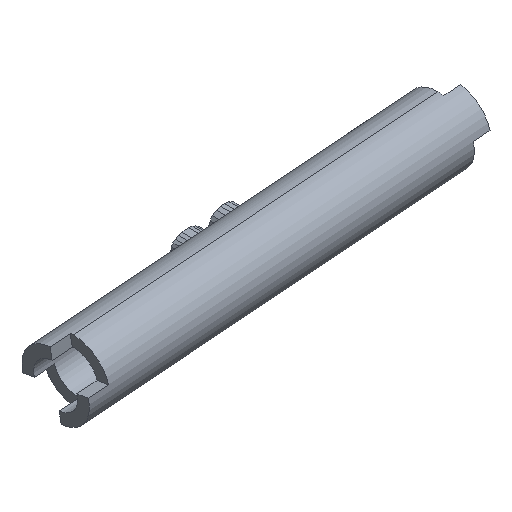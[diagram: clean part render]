
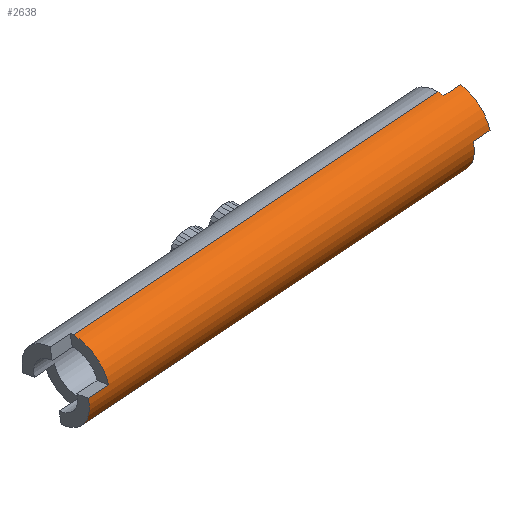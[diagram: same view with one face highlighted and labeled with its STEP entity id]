
A CAD part, isometric view. The second image highlights one B-rep face of the part: STEP entity #2638.
In plain terms, the highlighted cylindrical face has radius 5 mm (diameter 10 mm), a partial arc.
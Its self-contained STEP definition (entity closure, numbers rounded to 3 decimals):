
#15=CARTESIAN_POINT('',(882.82,0.,-119.291));
#16=DIRECTION('',(-0.997,0.,-0.077));
#17=DIRECTION('',(-0.076,-0.174,0.982));
#18=AXIS2_PLACEMENT_3D('',#15,#16,#17);
#43=CARTESIAN_POINT('',(882.82,0.,-119.291));
#44=DIRECTION('',(-0.997,0.,-0.077));
#45=DIRECTION('',(0.077,0.,-0.997));
#46=AXIS2_PLACEMENT_3D('',#43,#44,#45);
#73=DIRECTION('',(-0.997,0.,-0.077));
#74=VECTOR('',#73,54.366);
#75=CARTESIAN_POINT('',(882.434,0.,-114.306));
#76=LINE('',#75,#74);
#683=DIRECTION('',(0.997,0.,0.077));
#684=VECTOR('',#683,2.5);
#685=CARTESIAN_POINT('',(882.439,-0.868,
-114.381));
#686=LINE('',#685,#684);
#687=DIRECTION('',(-0.997,0.,-0.077));
#688=VECTOR('',#687,54.366);
#689=CARTESIAN_POINT('',(883.206,0.,-124.276));
#690=LINE('',#689,#688);
#691=CARTESIAN_POINT('',(828.616,0.,-123.49));
#692=DIRECTION('',(-0.997,0.,-0.077));
#693=DIRECTION('',(0.077,0.,-0.997));
#694=AXIS2_PLACEMENT_3D('',#691,#692,#693);
#696=DIRECTION('',(0.997,0.,0.077));
#697=VECTOR('',#696,3.);
#698=CARTESIAN_POINT('',(826.01,-0.436,
-128.688));
#699=LINE('',#698,#697);
#700=CARTESIAN_POINT('',(828.616,0.,-123.49));
#701=DIRECTION('',(-0.997,0.,-0.077));
#702=DIRECTION('',(-0.013,-0.985,0.173));
#703=AXIS2_PLACEMENT_3D('',#700,#701,#702);
#717=DIRECTION('',(0.997,0.,0.077));
#718=VECTOR('',#717,2.5);
#719=CARTESIAN_POINT('',(882.753,-4.924,-118.425));
#720=LINE('',#719,#718);
#730=CARTESIAN_POINT('',(885.312,0.,-119.097));
#731=DIRECTION('',(0.997,0.,0.077));
#732=DIRECTION('',(-0.076,-0.174,0.982));
#733=AXIS2_PLACEMENT_3D('',#730,#731,#732);
#809=DIRECTION('',(0.997,0.,0.077));
#810=VECTOR('',#809,3.);
#811=CARTESIAN_POINT('',(825.558,-4.924,-122.856));
#812=LINE('',#811,#810);
#822=CARTESIAN_POINT('',(825.625,0.,-123.722));
#823=DIRECTION('',(-0.997,0.,-0.077));
#824=DIRECTION('',(0.077,-0.087,-0.993));
#825=AXIS2_PLACEMENT_3D('',#822,#823,#824);
#1779=CARTESIAN_POINT('',(826.01,-0.436,
-128.688));
#1780=CARTESIAN_POINT('',(825.558,-4.924,
-122.856));
#1781=VERTEX_POINT('',#1779);
#1782=VERTEX_POINT('',#1780);
#1783=CARTESIAN_POINT('',(829.001,-0.436,
-128.456));
#1784=VERTEX_POINT('',#1783);
#1785=CARTESIAN_POINT('',(828.549,-4.924,
-122.625));
#1786=VERTEX_POINT('',#1785);
#1795=CARTESIAN_POINT('',(884.932,-0.868,
-114.188));
#1796=CARTESIAN_POINT('',(885.245,-4.924,
-118.232));
#1797=VERTEX_POINT('',#1795);
#1798=VERTEX_POINT('',#1796);
#1799=CARTESIAN_POINT('',(882.439,-0.868,
-114.381));
#1800=VERTEX_POINT('',#1799);
#1801=CARTESIAN_POINT('',(882.753,-4.924,
-118.425));
#1802=VERTEX_POINT('',#1801);
#1803=CARTESIAN_POINT('',(828.23,0.,-118.505));
#1804=VERTEX_POINT('',#1803);
#1805=CARTESIAN_POINT('',(829.002,0.,-128.475));
#1806=VERTEX_POINT('',#1805);
#1807=CARTESIAN_POINT('',(882.434,0.,-114.306));
#1808=VERTEX_POINT('',#1807);
#1809=CARTESIAN_POINT('',(883.206,0.,-124.276));
#1810=VERTEX_POINT('',#1809);
#2611=CARTESIAN_POINT('',(882.82,0.,-119.291));
#2612=DIRECTION('',(-0.997,0.,-0.077));
#2613=DIRECTION('',(-0.077,0.,0.997));
#2614=AXIS2_PLACEMENT_3D('',#2611,#2612,#2613);
#2615=CYLINDRICAL_SURFACE('',#2614,5.);
#2616=ORIENTED_EDGE('',*,*,#2238,.F.);
#2618=ORIENTED_EDGE('',*,*,#2617,.T.);
#2620=ORIENTED_EDGE('',*,*,#2619,.T.);
#2622=ORIENTED_EDGE('',*,*,#2621,.F.);
#2623=ORIENTED_EDGE('',*,*,#2258,.F.);
#2624=ORIENTED_EDGE('',*,*,#2335,.T.);
#2626=ORIENTED_EDGE('',*,*,#2625,.T.);
#2628=ORIENTED_EDGE('',*,*,#2627,.F.);
#2630=ORIENTED_EDGE('',*,*,#2629,.T.);
#2632=ORIENTED_EDGE('',*,*,#2631,.T.);
#2634=ORIENTED_EDGE('',*,*,#2633,.T.);
#2635=ORIENTED_EDGE('',*,*,#2323,.F.);
#2636=EDGE_LOOP('',(#2616,#2618,#2620,#2622,#2623,#2624,#2626,#2628,#2630,#2632,
#2634,#2635));
#2637=FACE_OUTER_BOUND('',#2636,.F.);
#2638=ADVANCED_FACE('',(#2637),#2615,.T.);
#19=CIRCLE('',#18,5.);
#47=CIRCLE('',#46,5.);
#695=CIRCLE('',#694,5.);
#704=CIRCLE('',#703,5.);
#734=CIRCLE('',#733,5.);
#826=CIRCLE('',#825,5.);
#2238=EDGE_CURVE('',#1800,#1808,#19,.T.);
#2258=EDGE_CURVE('',#1810,#1802,#47,.T.);
#2323=EDGE_CURVE('',#1808,#1804,#76,.T.);
#2335=EDGE_CURVE('',#1810,#1806,#690,.T.);
#2617=EDGE_CURVE('',#1800,#1797,#686,.T.);
#2619=EDGE_CURVE('',#1797,#1798,#734,.T.);
#2621=EDGE_CURVE('',#1802,#1798,#720,.T.);
#2625=EDGE_CURVE('',#1806,#1784,#695,.T.);
#2627=EDGE_CURVE('',#1781,#1784,#699,.T.);
#2629=EDGE_CURVE('',#1781,#1782,#826,.T.);
#2631=EDGE_CURVE('',#1782,#1786,#812,.T.);
#2633=EDGE_CURVE('',#1786,#1804,#704,.T.);
